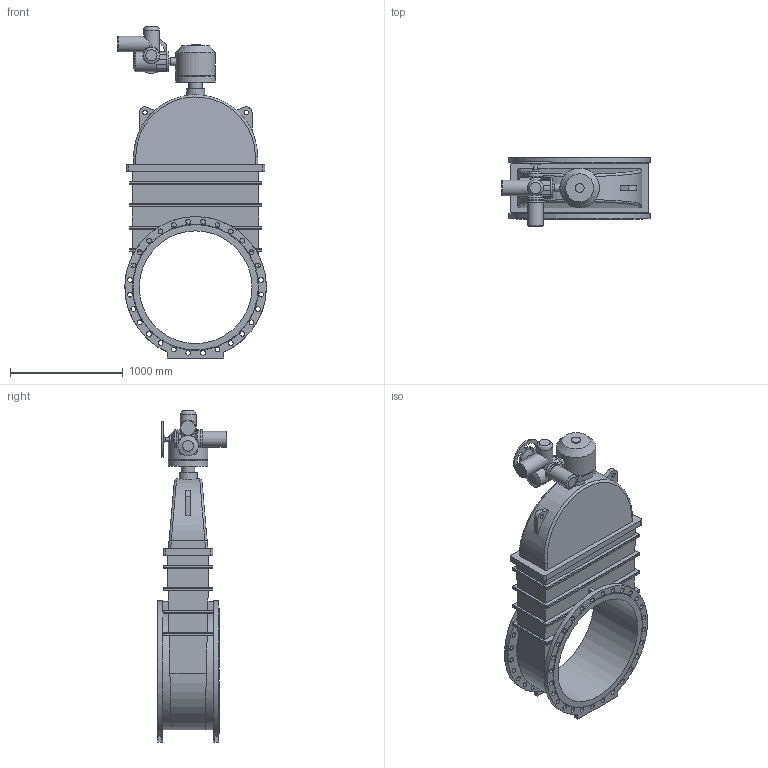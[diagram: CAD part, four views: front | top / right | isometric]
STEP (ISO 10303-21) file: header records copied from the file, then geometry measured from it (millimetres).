
FILE_DESCRIPTION(('STEP AP203'), '1');
FILE_NAME('Çàäâèæêà 47GV.Z DN1000 PN16 + ðåäóêòîð+ÌÒ903.À30', '', ('UNSPECIFIED'), ('UNSPECIFIED'), 'ASCON STEP Converter 1.6', 'ASCON Math Kernel', '');
FILE_SCHEMA(('CONFIG_CONTROL_DESIGN'));
Length unit declared in the file: millimetre
Bounding box: 1319.5 x 619 x 2944.5 mm (x, y, z)
Volume: 603062468 mm3; surface area: 11408378.9 mm2
Topology: 1 solids, 1 shells, 369 faces, 917 edges, 582 vertices
Faces by surface type: cylinder 175, plane 147, bspline 34, cone 12, torus 1
Full cylindrical faces by diameter (mm): 14 x4, 18 x4, 32 x1, 40 x2, 43 x56, 50 x1, 60 x1, 70 x1, 80 x1, 100 x1, 120 x1, 140 x4, 147 x1, 151 x1, 160 x1, 175 x1, 330 x1, 350 x2, 1000 x1, 1255 x2
Entity records: 17796 total; most frequent: CARTESIAN_POINT 6369, DIRECTION 1675, ORIENTED_EDGE 1636, EDGE_CURVE 818, AXIS2_PLACEMENT_3D 653, EDGE_LOOP 624, VERTEX_POINT 582, FACE_BOUND 433
